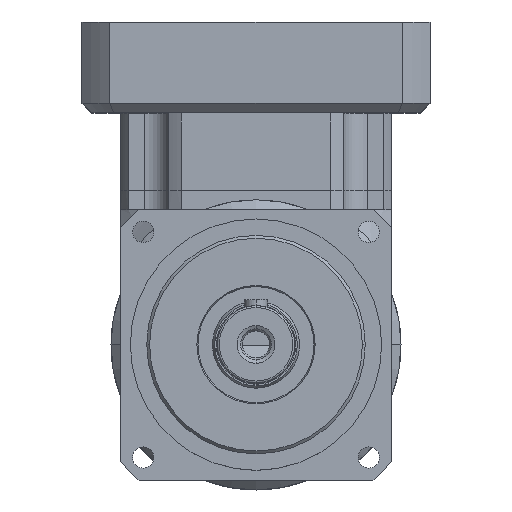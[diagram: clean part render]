
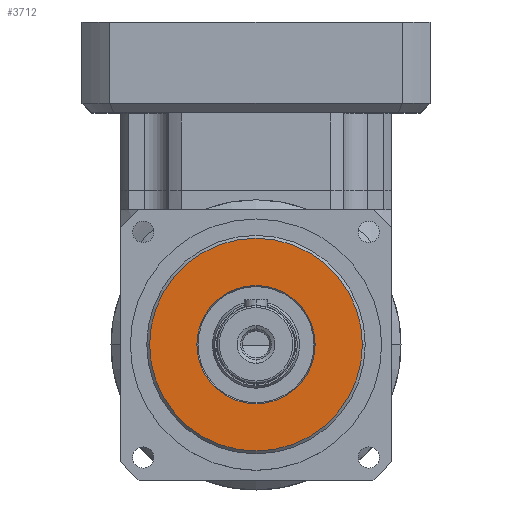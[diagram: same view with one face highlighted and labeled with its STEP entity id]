
A CAD part, top view. The second image highlights one B-rep face of the part: STEP entity #3712.
In plain terms, the highlighted planar face has unit normal (0, 0, 1).
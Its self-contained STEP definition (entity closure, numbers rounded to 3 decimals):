
#336 = EDGE_LOOP ( 'NONE', ( #4374, #14655 ) ) ;
#837 = CIRCLE ( 'NONE', #8170, 30.577 ) ;
#1655 = DIRECTION ( 'NONE',  ( 1., 0., 0. ) ) ;
#2082 = EDGE_CURVE ( 'NONE', #6665, #15202, #14957, .T. ) ;
#2536 = DIRECTION ( 'NONE',  ( 1., 0., 0. ) ) ;
#2658 = AXIS2_PLACEMENT_3D ( 'NONE', #8084, #9243, #6717 ) ;
#3041 = CIRCLE ( 'NONE', #7359, 30.577 ) ;
#3220 = ORIENTED_EDGE ( 'NONE', *, *, #17809, .F. ) ;
#3712 = ADVANCED_FACE ( 'NONE', ( #7557, #3908 ), #16091, .F. ) ;
#3908 = FACE_OUTER_BOUND ( 'NONE', #336, .T. ) ;
#3928 = DIRECTION ( 'NONE',  ( 1., 0., 0. ) ) ;
#4243 = DIRECTION ( 'NONE',  ( 0., 0., 1. ) ) ;
#4374 = ORIENTED_EDGE ( 'NONE', *, *, #7307, .T. ) ;
#5143 = CIRCLE ( 'NONE', #17308, 55. ) ;
#6652 = EDGE_LOOP ( 'NONE', ( #3220, #7527 ) ) ;
#6665 = VERTEX_POINT ( 'NONE', #9760 ) ;
#6717 = DIRECTION ( 'NONE',  ( -1., 0., 0. ) ) ;
#7307 = EDGE_CURVE ( 'NONE', #15202, #6665, #5143, .T. ) ;
#7359 = AXIS2_PLACEMENT_3D ( 'NONE', #15244, #15128, #3928 ) ;
#7527 = ORIENTED_EDGE ( 'NONE', *, *, #17620, .F. ) ;
#7557 = FACE_BOUND ( 'NONE', #6652, .T. ) ;
#8084 = CARTESIAN_POINT ( 'NONE',  ( 0., 30.577, 88.75 ) ) ;
#8170 = AXIS2_PLACEMENT_3D ( 'NONE', #17459, #11952, #2536 ) ;
#8268 = CARTESIAN_POINT ( 'NONE',  ( -30.577, 0., 88.75 ) ) ;
#8616 = DIRECTION ( 'NONE',  ( 0., 0., 1. ) ) ;
#9243 = DIRECTION ( 'NONE',  ( 0., 0., -1. ) ) ;
#9732 = VERTEX_POINT ( 'NONE', #17356 ) ;
#9760 = CARTESIAN_POINT ( 'NONE',  ( 55., 0., 88.75 ) ) ;
#9828 = CARTESIAN_POINT ( 'NONE',  ( 0., 0., 88.75 ) ) ;
#11952 = DIRECTION ( 'NONE',  ( 0., 0., 1. ) ) ;
#12569 = AXIS2_PLACEMENT_3D ( 'NONE', #14199, #8616, #1655 ) ;
#13718 = VERTEX_POINT ( 'NONE', #8268 ) ;
#14199 = CARTESIAN_POINT ( 'NONE',  ( 0., 0., 88.75 ) ) ;
#14655 = ORIENTED_EDGE ( 'NONE', *, *, #2082, .T. ) ;
#14957 = CIRCLE ( 'NONE', #12569, 55. ) ;
#15128 = DIRECTION ( 'NONE',  ( 0., 0., 1. ) ) ;
#15202 = VERTEX_POINT ( 'NONE', #17474 ) ;
#15244 = CARTESIAN_POINT ( 'NONE',  ( 0., 0., 88.75 ) ) ;
#16091 = PLANE ( 'NONE',  #2658 ) ;
#16626 = DIRECTION ( 'NONE',  ( 1., 0., 0. ) ) ;
#17308 = AXIS2_PLACEMENT_3D ( 'NONE', #9828, #4243, #16626 ) ;
#17356 = CARTESIAN_POINT ( 'NONE',  ( 30.577, 0., 88.75 ) ) ;
#17459 = CARTESIAN_POINT ( 'NONE',  ( 0., 0., 88.75 ) ) ;
#17474 = CARTESIAN_POINT ( 'NONE',  ( -55., 0., 88.75 ) ) ;
#17620 = EDGE_CURVE ( 'NONE', #13718, #9732, #837, .T. ) ;
#17809 = EDGE_CURVE ( 'NONE', #9732, #13718, #3041, .T. ) ;
